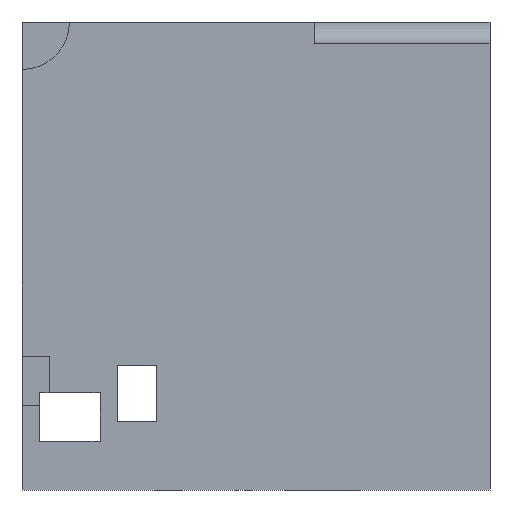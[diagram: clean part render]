
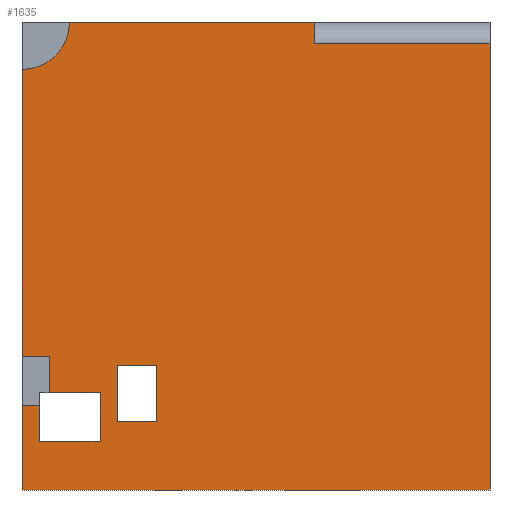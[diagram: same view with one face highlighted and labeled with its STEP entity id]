
A CAD part, front view. The second image highlights one B-rep face of the part: STEP entity #1635.
In plain terms, the highlighted planar face has unit normal (0, -1, 0).
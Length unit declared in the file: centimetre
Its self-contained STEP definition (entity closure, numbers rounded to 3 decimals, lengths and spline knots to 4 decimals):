
#4 = VERTEX_POINT ( 'NONE', #1111 ) ;
#6 = FACE_BOUND ( 'NONE', #1153, .T. ) ;
#7 = EDGE_CURVE ( 'NONE', #632, #132, #1699, .T. ) ;
#22 = VECTOR ( 'NONE', #1041, 100. ) ;
#38 = ORIENTED_EDGE ( 'NONE', *, *, #1447, .F. ) ;
#55 = CARTESIAN_POINT ( 'NONE',  ( 1000., 0., 1000. ) ) ;
#62 = CARTESIAN_POINT ( 'NONE',  ( 166.8926, 0., 104.2543 ) ) ;
#83 = CARTESIAN_POINT ( 'NONE',  ( 0., 0., 1000. ) ) ;
#93 = DIRECTION ( 'NONE',  ( 0., 0., 1. ) ) ;
#103 = CARTESIAN_POINT ( 'NONE',  ( 204.2783, 0., 266.3 ) ) ;
#109 = DIRECTION ( 'NONE',  ( 0., 0., 1. ) ) ;
#110 = VECTOR ( 'NONE', #1200, 100. ) ;
#126 = CARTESIAN_POINT ( 'NONE',  ( 58.3311, 0., 285.9398 ) ) ;
#127 = VERTEX_POINT ( 'NONE', #1423 ) ;
#132 = VERTEX_POINT ( 'NONE', #303 ) ;
#133 = ORIENTED_EDGE ( 'NONE', *, *, #803, .T. ) ;
#144 = VECTOR ( 'NONE', #93, 100. ) ;
#169 = VECTOR ( 'NONE', #333, 100. ) ;
#201 = ORIENTED_EDGE ( 'NONE', *, *, #1099, .T. ) ;
#203 = CARTESIAN_POINT ( 'NONE',  ( 0., 0., 0. ) ) ;
#222 = LINE ( 'NONE', #687, #737 ) ;
#234 = DIRECTION ( 'NONE',  ( 0., 0., -1. ) ) ;
#238 = EDGE_CURVE ( 'NONE', #637, #127, #821, .T. ) ;
#281 = ORIENTED_EDGE ( 'NONE', *, *, #238, .F. ) ;
#283 = DIRECTION ( 'NONE',  ( 0., 0., 1. ) ) ;
#303 = CARTESIAN_POINT ( 'NONE',  ( 204.2783, 0., 145.5359 ) ) ;
#317 = LINE ( 'NONE', #1441, #1039 ) ;
#318 = ORIENTED_EDGE ( 'NONE', *, *, #1474, .F. ) ;
#333 = DIRECTION ( 'NONE',  ( 0., 0., -1. ) ) ;
#335 = LINE ( 'NONE', #1529, #144 ) ;
#336 = VERTEX_POINT ( 'NONE', #938 ) ;
#339 = EDGE_CURVE ( 'NONE', #849, #620, #1622, .T. ) ;
#360 = CARTESIAN_POINT ( 'NONE',  ( 287.8041, 0., 145.5359 ) ) ;
#389 = LINE ( 'NONE', #672, #1427 ) ;
#400 = CARTESIAN_POINT ( 'NONE',  ( 624.9761, 0., 954.0183 ) ) ;
#409 = VECTOR ( 'NONE', #1101, 100. ) ;
#439 = VECTOR ( 'NONE', #929, 100. ) ;
#446 = CARTESIAN_POINT ( 'NONE',  ( 287.8041, 0., 145.5359 ) ) ;
#461 = FACE_OUTER_BOUND ( 'NONE', #1295, .T. ) ;
#484 = ORIENTED_EDGE ( 'NONE', *, *, #660, .F. ) ;
#486 = CARTESIAN_POINT ( 'NONE',  ( 624.9761, 0., 954.0183 ) ) ;
#505 = EDGE_CURVE ( 'NONE', #637, #4, #317, .T. ) ;
#514 = DIRECTION ( 'NONE',  ( 1., 0., 0. ) ) ;
#538 = CARTESIAN_POINT ( 'NONE',  ( 0., 0., 180.3062 ) ) ;
#552 = LINE ( 'NONE', #684, #1494 ) ;
#553 = VECTOR ( 'NONE', #1668, 100. ) ;
#564 = CARTESIAN_POINT ( 'NONE',  ( 0., 0., 0. ) ) ;
#594 = CARTESIAN_POINT ( 'NONE',  ( 1000., 0., 0. ) ) ;
#620 = VERTEX_POINT ( 'NONE', #594 ) ;
#621 = AXIS2_PLACEMENT_3D ( 'NONE', #864, #1740, #283 ) ;
#623 = VERTEX_POINT ( 'NONE', #1705 ) ;
#625 = CARTESIAN_POINT ( 'NONE',  ( 166.8926, 0., 104.2543 ) ) ;
#632 = VERTEX_POINT ( 'NONE', #1628 ) ;
#635 = ORIENTED_EDGE ( 'NONE', *, *, #1432, .T. ) ;
#637 = VERTEX_POINT ( 'NONE', #1787 ) ;
#651 = EDGE_CURVE ( 'NONE', #1448, #1061, #889, .T. ) ;
#653 = ORIENTED_EDGE ( 'NONE', *, *, #1077, .T. ) ;
#660 = EDGE_CURVE ( 'NONE', #1822, #623, #1060, .T. ) ;
#663 = DIRECTION ( 'NONE',  ( 1., 0., 0. ) ) ;
#672 = CARTESIAN_POINT ( 'NONE',  ( 0., 0., 285.9398 ) ) ;
#684 = CARTESIAN_POINT ( 'NONE',  ( 37.1268, 0., 207.6249 ) ) ;
#687 = CARTESIAN_POINT ( 'NONE',  ( 624.9761, 0., 1000. ) ) ;
#727 = ORIENTED_EDGE ( 'NONE', *, *, #1194, .T. ) ;
#737 = VECTOR ( 'NONE', #1828, 100. ) ;
#786 = CARTESIAN_POINT ( 'NONE',  ( 204.2783, 0., 145.5359 ) ) ;
#803 = EDGE_CURVE ( 'NONE', #1061, #968, #1400, .T. ) ;
#809 = LINE ( 'NONE', #103, #949 ) ;
#816 = DIRECTION ( 'NONE',  ( -1., 0., 0. ) ) ;
#821 = CIRCLE ( 'NONE', #974, 101.3829 ) ;
#837 = EDGE_CURVE ( 'NONE', #849, #1065, #1678, .T. ) ;
#849 = VERTEX_POINT ( 'NONE', #1802 ) ;
#864 = CARTESIAN_POINT ( 'NONE',  ( 0., 0., 1000. ) ) ;
#882 = EDGE_CURVE ( 'NONE', #623, #632, #809, .T. ) ;
#889 = LINE ( 'NONE', #625, #110 ) ;
#902 = CARTESIAN_POINT ( 'NONE',  ( 0., 0., 1000. ) ) ;
#916 = EDGE_CURVE ( 'NONE', #1313, #1065, #222, .T. ) ;
#923 = VECTOR ( 'NONE', #663, 100. ) ;
#926 = DIRECTION ( 'NONE',  ( 0., 0., -1. ) ) ;
#929 = DIRECTION ( 'NONE',  ( 1., 0., 0. ) ) ;
#938 = CARTESIAN_POINT ( 'NONE',  ( 37.1268, 0., 180.3062 ) ) ;
#943 = CARTESIAN_POINT ( 'NONE',  ( 37.1268, 0., 104.2543 ) ) ;
#949 = VECTOR ( 'NONE', #970, 100. ) ;
#962 = EDGE_CURVE ( 'NONE', #127, #1313, #1082, .T. ) ;
#968 = VERTEX_POINT ( 'NONE', #943 ) ;
#969 = DIRECTION ( 'NONE',  ( 1., 0., 0. ) ) ;
#970 = DIRECTION ( 'NONE',  ( -1., 0., 0. ) ) ;
#974 = AXIS2_PLACEMENT_3D ( 'NONE', #902, #1780, #1488 ) ;
#1039 = VECTOR ( 'NONE', #1420, 100. ) ;
#1041 = DIRECTION ( 'NONE',  ( 0., 0., 1. ) ) ;
#1060 = LINE ( 'NONE', #360, #22 ) ;
#1061 = VERTEX_POINT ( 'NONE', #62 ) ;
#1065 = VERTEX_POINT ( 'NONE', #486 ) ;
#1077 = EDGE_CURVE ( 'NONE', #968, #336, #1667, .T. ) ;
#1080 = EDGE_CURVE ( 'NONE', #1542, #4, #389, .T. ) ;
#1081 = LINE ( 'NONE', #786, #1098 ) ;
#1082 = LINE ( 'NONE', #1213, #439 ) ;
#1098 = VECTOR ( 'NONE', #1658, 100. ) ;
#1099 = EDGE_CURVE ( 'NONE', #1328, #1448, #552, .T. ) ;
#1101 = DIRECTION ( 'NONE',  ( -1., 0., 0. ) ) ;
#1103 = ORIENTED_EDGE ( 'NONE', *, *, #339, .F. ) ;
#1111 = CARTESIAN_POINT ( 'NONE',  ( 0., 0., 285.9398 ) ) ;
#1145 = CARTESIAN_POINT ( 'NONE',  ( 624.9761, 0., 1000. ) ) ;
#1153 = EDGE_LOOP ( 'NONE', ( #38, #1512, #1180, #484 ) ) ;
#1180 = ORIENTED_EDGE ( 'NONE', *, *, #882, .F. ) ;
#1191 = VECTOR ( 'NONE', #514, 100. ) ;
#1194 = EDGE_CURVE ( 'NONE', #1331, #620, #1377, .T. ) ;
#1200 = DIRECTION ( 'NONE',  ( 0., 0., -1. ) ) ;
#1213 = CARTESIAN_POINT ( 'NONE',  ( 0., 0., 1000. ) ) ;
#1236 = CARTESIAN_POINT ( 'NONE',  ( 37.1268, 0., 104.2543 ) ) ;
#1245 = LINE ( 'NONE', #538, #1191 ) ;
#1295 = EDGE_LOOP ( 'NONE', ( #1639, #1806, #318, #201, #1843, #133, #653, #1421, #635, #727, #1103, #1776, #1686, #1381, #281 ) ) ;
#1296 = CARTESIAN_POINT ( 'NONE',  ( 58.3311, 0., 207.6249 ) ) ;
#1310 = CARTESIAN_POINT ( 'NONE',  ( 0., 0., 180.3062 ) ) ;
#1313 = VERTEX_POINT ( 'NONE', #1145 ) ;
#1328 = VERTEX_POINT ( 'NONE', #1296 ) ;
#1331 = VERTEX_POINT ( 'NONE', #203 ) ;
#1359 = LINE ( 'NONE', #83, #1733 ) ;
#1369 = CARTESIAN_POINT ( 'NONE',  ( 166.8926, 0., 207.6249 ) ) ;
#1377 = LINE ( 'NONE', #564, #923 ) ;
#1381 = ORIENTED_EDGE ( 'NONE', *, *, #962, .F. ) ;
#1387 = CARTESIAN_POINT ( 'NONE',  ( 37.1268, 0., 104.2543 ) ) ;
#1394 = VECTOR ( 'NONE', #109, 100. ) ;
#1400 = LINE ( 'NONE', #1387, #409 ) ;
#1420 = DIRECTION ( 'NONE',  ( 0., 0., -1. ) ) ;
#1421 = ORIENTED_EDGE ( 'NONE', *, *, #1518, .F. ) ;
#1423 = CARTESIAN_POINT ( 'NONE',  ( 101.3829, 0., 1000. ) ) ;
#1427 = VECTOR ( 'NONE', #816, 100. ) ;
#1432 = EDGE_CURVE ( 'NONE', #1812, #1331, #1359, .T. ) ;
#1441 = CARTESIAN_POINT ( 'NONE',  ( 0., 0., 1000. ) ) ;
#1447 = EDGE_CURVE ( 'NONE', #132, #1822, #1081, .T. ) ;
#1448 = VERTEX_POINT ( 'NONE', #1369 ) ;
#1474 = EDGE_CURVE ( 'NONE', #1328, #1542, #335, .T. ) ;
#1488 = DIRECTION ( 'NONE',  ( 0., 0., -1. ) ) ;
#1494 = VECTOR ( 'NONE', #969, 100. ) ;
#1512 = ORIENTED_EDGE ( 'NONE', *, *, #7, .F. ) ;
#1518 = EDGE_CURVE ( 'NONE', #1812, #336, #1245, .T. ) ;
#1528 = CARTESIAN_POINT ( 'NONE',  ( 204.2783, 0., 145.5359 ) ) ;
#1529 = CARTESIAN_POINT ( 'NONE',  ( 58.3311, 0., 180.3062 ) ) ;
#1542 = VERTEX_POINT ( 'NONE', #126 ) ;
#1622 = LINE ( 'NONE', #55, #169 ) ;
#1628 = CARTESIAN_POINT ( 'NONE',  ( 204.2783, 0., 266.3 ) ) ;
#1635 = ADVANCED_FACE ( 'NONE', ( #6, #461 ), #1717, .F. ) ;
#1639 = ORIENTED_EDGE ( 'NONE', *, *, #505, .T. ) ;
#1658 = DIRECTION ( 'NONE',  ( 1., 0., 0. ) ) ;
#1667 = LINE ( 'NONE', #1236, #1394 ) ;
#1668 = DIRECTION ( 'NONE',  ( -1., 0., 0. ) ) ;
#1678 = LINE ( 'NONE', #400, #553 ) ;
#1686 = ORIENTED_EDGE ( 'NONE', *, *, #916, .F. ) ;
#1699 = LINE ( 'NONE', #1528, #1790 ) ;
#1705 = CARTESIAN_POINT ( 'NONE',  ( 287.8041, 0., 266.3 ) ) ;
#1717 = PLANE ( 'NONE',  #621 ) ;
#1733 = VECTOR ( 'NONE', #926, 100. ) ;
#1740 = DIRECTION ( 'NONE',  ( 0., 1., 0. ) ) ;
#1776 = ORIENTED_EDGE ( 'NONE', *, *, #837, .T. ) ;
#1780 = DIRECTION ( 'NONE',  ( 0., -1., 0. ) ) ;
#1787 = CARTESIAN_POINT ( 'NONE',  ( 0., 0., 898.6171 ) ) ;
#1790 = VECTOR ( 'NONE', #234, 100. ) ;
#1802 = CARTESIAN_POINT ( 'NONE',  ( 1000., 0., 954.0183 ) ) ;
#1806 = ORIENTED_EDGE ( 'NONE', *, *, #1080, .F. ) ;
#1812 = VERTEX_POINT ( 'NONE', #1310 ) ;
#1822 = VERTEX_POINT ( 'NONE', #446 ) ;
#1828 = DIRECTION ( 'NONE',  ( 0., 0., -1. ) ) ;
#1843 = ORIENTED_EDGE ( 'NONE', *, *, #651, .T. ) ;
